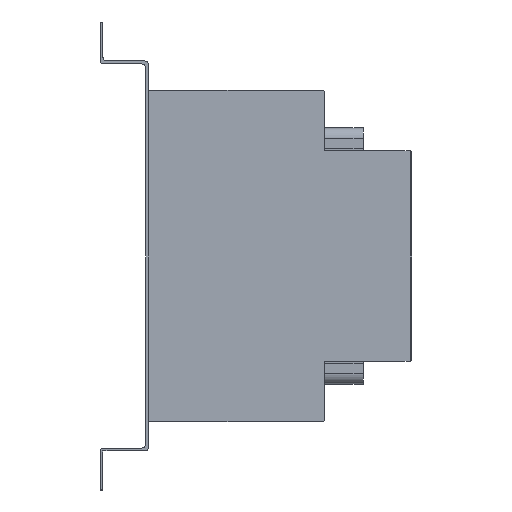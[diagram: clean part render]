
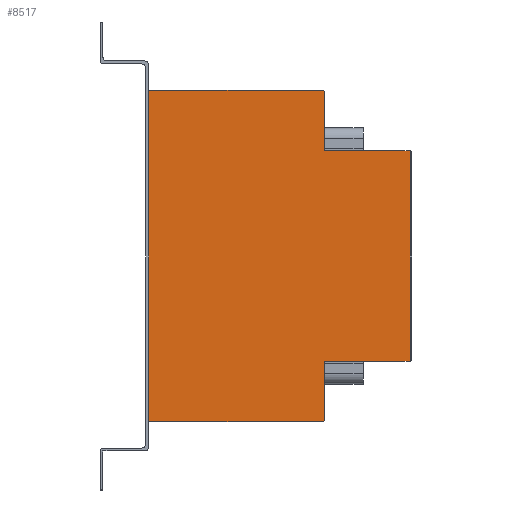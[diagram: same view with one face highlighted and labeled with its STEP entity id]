
A CAD part, left-side view. The second image highlights one B-rep face of the part: STEP entity #8517.
In plain terms, the highlighted planar face has unit normal (-1, 0, 0).
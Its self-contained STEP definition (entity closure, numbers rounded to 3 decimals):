
#327=PLANE('',#9075);
#658=FACE_OUTER_BOUND('',#1144,.T.);
#1144=EDGE_LOOP('',(#6232,#6233,#6234,#6235,#6236,#6237,#6238,#6239,#6240,
#6241,#6242,#6243));
#1649=LINE('',#11974,#2566);
#1715=LINE('',#12128,#2632);
#1742=LINE('',#12184,#2659);
#1842=LINE('',#12441,#2759);
#1869=LINE('',#12511,#2786);
#1876=LINE('',#12533,#2793);
#1877=LINE('',#12535,#2794);
#1878=LINE('',#12536,#2795);
#2566=VECTOR('',#9692,43.);
#2632=VECTOR('',#9794,43.);
#2659=VECTOR('',#9831,89.);
#2759=VECTOR('',#10059,89.);
#2786=VECTOR('',#10120,29.);
#2793=VECTOR('',#10149,108.);
#2794=VECTOR('',#10152,29.);
#2795=VECTOR('',#10153,170.);
#3464=CIRCLE('',#8965,1.);
#3468=CIRCLE('',#8979,1.);
#3510=CIRCLE('',#9060,1.);
#3512=CIRCLE('',#9066,1.);
#3720=VERTEX_POINT('',#11971);
#3721=VERTEX_POINT('',#11973);
#3758=VERTEX_POINT('',#12052);
#3790=VERTEX_POINT('',#12125);
#3791=VERTEX_POINT('',#12127);
#3809=VERTEX_POINT('',#12167);
#3810=VERTEX_POINT('',#12168);
#3815=VERTEX_POINT('',#12183);
#3907=VERTEX_POINT('',#12438);
#3908=VERTEX_POINT('',#12440);
#3930=VERTEX_POINT('',#12498);
#3934=VERTEX_POINT('',#12510);
#4572=EDGE_CURVE('',#3721,#3720,#1649,.T.);
#4612=EDGE_CURVE('',#3721,#3758,#3464,.T.);
#4648=EDGE_CURVE('',#3791,#3790,#1715,.T.);
#4669=EDGE_CURVE('',#3809,#3810,#3468,.T.);
#4677=EDGE_CURVE('',#3815,#3810,#1742,.T.);
#4810=EDGE_CURVE('',#3908,#3907,#1842,.T.);
#4840=EDGE_CURVE('',#3908,#3930,#3510,.T.);
#4846=EDGE_CURVE('',#3934,#3930,#1869,.T.);
#4849=EDGE_CURVE('',#3934,#3790,#3512,.T.);
#4859=EDGE_CURVE('',#3791,#3720,#1876,.T.);
#4860=EDGE_CURVE('',#3809,#3758,#1877,.T.);
#4861=EDGE_CURVE('',#3815,#3907,#1878,.T.);
#6232=ORIENTED_EDGE('',*,*,#4669,.F.);
#6233=ORIENTED_EDGE('',*,*,#4860,.T.);
#6234=ORIENTED_EDGE('',*,*,#4612,.F.);
#6235=ORIENTED_EDGE('',*,*,#4572,.T.);
#6236=ORIENTED_EDGE('',*,*,#4859,.F.);
#6237=ORIENTED_EDGE('',*,*,#4648,.T.);
#6238=ORIENTED_EDGE('',*,*,#4849,.F.);
#6239=ORIENTED_EDGE('',*,*,#4846,.T.);
#6240=ORIENTED_EDGE('',*,*,#4840,.F.);
#6241=ORIENTED_EDGE('',*,*,#4810,.T.);
#6242=ORIENTED_EDGE('',*,*,#4861,.F.);
#6243=ORIENTED_EDGE('',*,*,#4677,.T.);
#8517=ADVANCED_FACE('',(#658),#327,.T.);
#8965=AXIS2_PLACEMENT_3D('',#12053,#9739,#9740);
#8979=AXIS2_PLACEMENT_3D('',#12169,#9817,#9818);
#9060=AXIS2_PLACEMENT_3D('',#12499,#10108,#10109);
#9066=AXIS2_PLACEMENT_3D('',#12515,#10126,#10127);
#9075=AXIS2_PLACEMENT_3D('',#12534,#10150,#10151);
#9692=DIRECTION('',(0.,-1.,0.));
#9739=DIRECTION('center_axis',(-1.,0.,0.));
#9740=DIRECTION('ref_axis',(0.,0.707,0.707));
#9794=DIRECTION('',(0.,1.,0.));
#9817=DIRECTION('center_axis',(1.,0.,0.));
#9818=DIRECTION('ref_axis',(0.,-0.707,-0.707));
#9831=DIRECTION('',(0.,-1.,0.));
#10059=DIRECTION('',(0.,1.,0.));
#10108=DIRECTION('center_axis',(1.,0.,0.));
#10109=DIRECTION('ref_axis',(0.,-0.707,0.707));
#10120=DIRECTION('',(0.,0.,1.));
#10126=DIRECTION('center_axis',(-1.,0.,0.));
#10127=DIRECTION('ref_axis',(0.,0.707,-0.707));
#10149=DIRECTION('',(0.,0.,-1.));
#10150=DIRECTION('center_axis',(-1.,0.,0.));
#10151=DIRECTION('ref_axis',(0.,-1.,0.));
#10152=DIRECTION('',(0.,0.,1.));
#10153=DIRECTION('',(0.,0.,1.));
#11971=CARTESIAN_POINT('',(30.645,-289.765,41.));
#11973=CARTESIAN_POINT('',(30.645,-246.765,41.));
#11974=CARTESIAN_POINT('',(30.645,-245.765,41.));
#12052=CARTESIAN_POINT('',(30.645,-245.765,40.));
#12053=CARTESIAN_POINT('Origin',(30.645,-246.765,40.));
#12125=CARTESIAN_POINT('',(30.645,-246.765,149.));
#12127=CARTESIAN_POINT('',(30.645,-289.765,149.));
#12128=CARTESIAN_POINT('',(30.645,-290.765,149.));
#12167=CARTESIAN_POINT('',(30.645,-245.765,11.));
#12168=CARTESIAN_POINT('',(30.645,-244.765,10.));
#12169=CARTESIAN_POINT('Origin',(30.645,-244.765,11.));
#12183=CARTESIAN_POINT('',(30.645,-155.765,10.));
#12184=CARTESIAN_POINT('',(30.645,-155.765,10.));
#12438=CARTESIAN_POINT('',(30.645,-155.765,180.));
#12440=CARTESIAN_POINT('',(30.645,-244.765,180.));
#12441=CARTESIAN_POINT('',(30.645,-245.765,180.));
#12498=CARTESIAN_POINT('',(30.645,-245.765,179.));
#12499=CARTESIAN_POINT('Origin',(30.645,-244.765,179.));
#12510=CARTESIAN_POINT('',(30.645,-245.765,150.));
#12511=CARTESIAN_POINT('',(30.645,-245.765,149.));
#12515=CARTESIAN_POINT('Origin',(30.645,-246.765,150.));
#12533=CARTESIAN_POINT('',(30.645,-289.765,68.));
#12534=CARTESIAN_POINT('Origin',(30.645,-218.691,95.));
#12535=CARTESIAN_POINT('',(30.645,-245.765,10.));
#12536=CARTESIAN_POINT('',(30.645,-155.765,145.));
